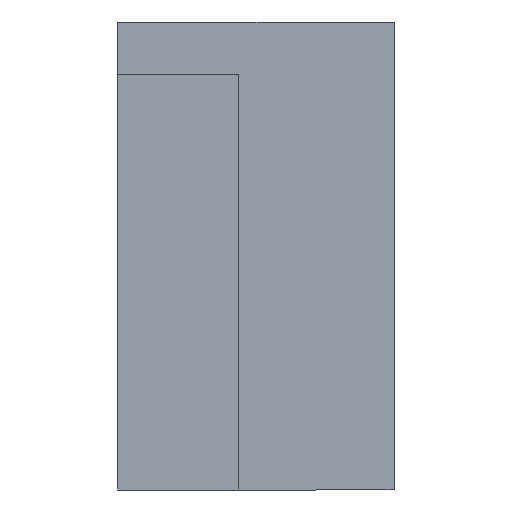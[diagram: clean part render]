
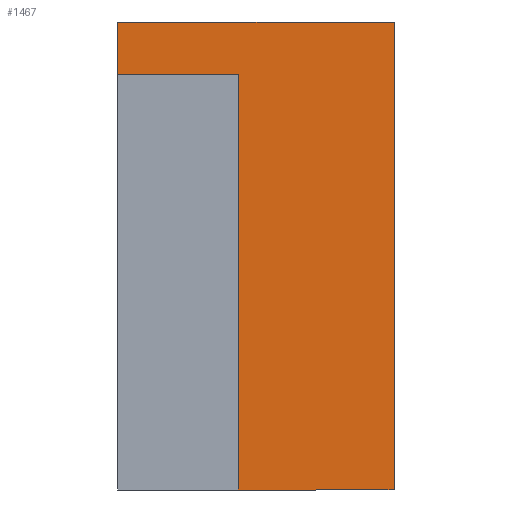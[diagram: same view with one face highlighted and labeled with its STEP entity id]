
A CAD part, left-side view. The second image highlights one B-rep face of the part: STEP entity #1467.
In plain terms, the highlighted planar face has unit normal (-1, 0, 0).
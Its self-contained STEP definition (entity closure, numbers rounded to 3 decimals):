
#32 = PLANE('',#33);
#33 = AXIS2_PLACEMENT_3D('',#34,#35,#36);
#34 = CARTESIAN_POINT('',(-7.8,3.675,0.));
#35 = DIRECTION('',(0.,0.,1.));
#36 = DIRECTION('',(0.,-1.,0.));
#44 = PLANE('',#45);
#45 = AXIS2_PLACEMENT_3D('',#46,#47,#48);
#46 = CARTESIAN_POINT('',(-7.8,3.675,0.));
#47 = DIRECTION('',(0.,-1.,0.));
#48 = DIRECTION('',(1.,0.,0.));
#85 = VERTEX_POINT('',#86);
#86 = CARTESIAN_POINT('',(-7.8,0.475,0.));
#100 = PLANE('',#101);
#101 = AXIS2_PLACEMENT_3D('',#102,#103,#104);
#102 = CARTESIAN_POINT('',(-15.7,0.475,0.));
#103 = DIRECTION('',(0.,-1.,0.));
#104 = DIRECTION('',(1.,0.,0.));
#112 = EDGE_CURVE('',#85,#113,#115,.T.);
#113 = VERTEX_POINT('',#114);
#114 = CARTESIAN_POINT('',(-7.8,-3.675,0.));
#115 = SURFACE_CURVE('',#116,(#120,#127),.PCURVE_S1.);
#116 = LINE('',#117,#118);
#117 = CARTESIAN_POINT('',(-7.8,3.675,0.));
#118 = VECTOR('',#119,1.);
#119 = DIRECTION('',(0.,-1.,0.));
#120 = PCURVE('',#32,#121);
#121 = DEFINITIONAL_REPRESENTATION('',(#122),#126);
#122 = LINE('',#123,#124);
#123 = CARTESIAN_POINT('',(0.,0.));
#124 = VECTOR('',#125,1.);
#125 = DIRECTION('',(1.,0.));
#126 = ( GEOMETRIC_REPRESENTATION_CONTEXT(2) 
PARAMETRIC_REPRESENTATION_CONTEXT() REPRESENTATION_CONTEXT('2D SPACE',''
  ) );
#127 = PCURVE('',#128,#133);
#128 = PLANE('',#129);
#129 = AXIS2_PLACEMENT_3D('',#130,#131,#132);
#130 = CARTESIAN_POINT('',(-7.8,3.675,0.));
#131 = DIRECTION('',(1.,0.,0.));
#132 = DIRECTION('',(0.,-1.,0.));
#133 = DEFINITIONAL_REPRESENTATION('',(#134),#138);
#134 = LINE('',#135,#136);
#135 = CARTESIAN_POINT('',(0.,0.));
#136 = VECTOR('',#137,1.);
#137 = DIRECTION('',(1.,0.));
#138 = ( GEOMETRIC_REPRESENTATION_CONTEXT(2) 
PARAMETRIC_REPRESENTATION_CONTEXT() REPRESENTATION_CONTEXT('2D SPACE',''
  ) );
#156 = PLANE('',#157);
#157 = AXIS2_PLACEMENT_3D('',#158,#159,#160);
#158 = CARTESIAN_POINT('',(-7.8,-3.675,0.));
#159 = DIRECTION('',(0.,-1.,0.));
#160 = DIRECTION('',(1.,0.,0.));
#659 = PLANE('',#660);
#660 = AXIS2_PLACEMENT_3D('',#661,#662,#663);
#661 = CARTESIAN_POINT('',(-7.8,3.675,12.46));
#662 = DIRECTION('',(0.,0.,1.));
#663 = DIRECTION('',(0.,-1.,0.));
#696 = VERTEX_POINT('',#697);
#697 = CARTESIAN_POINT('',(-7.8,3.675,12.46));
#718 = EDGE_CURVE('',#696,#719,#721,.T.);
#719 = VERTEX_POINT('',#720);
#720 = CARTESIAN_POINT('',(-7.8,-3.675,12.46));
#721 = SURFACE_CURVE('',#722,(#726,#733),.PCURVE_S1.);
#722 = LINE('',#723,#724);
#723 = CARTESIAN_POINT('',(-7.8,3.675,12.46));
#724 = VECTOR('',#725,1.);
#725 = DIRECTION('',(0.,-1.,0.));
#726 = PCURVE('',#659,#727);
#727 = DEFINITIONAL_REPRESENTATION('',(#728),#732);
#728 = LINE('',#729,#730);
#729 = CARTESIAN_POINT('',(0.,0.));
#730 = VECTOR('',#731,1.);
#731 = DIRECTION('',(1.,0.));
#732 = ( GEOMETRIC_REPRESENTATION_CONTEXT(2) 
PARAMETRIC_REPRESENTATION_CONTEXT() REPRESENTATION_CONTEXT('2D SPACE',''
  ) );
#733 = PCURVE('',#128,#734);
#734 = DEFINITIONAL_REPRESENTATION('',(#735),#739);
#735 = LINE('',#736,#737);
#736 = CARTESIAN_POINT('',(0.,-12.46));
#737 = VECTOR('',#738,1.);
#738 = DIRECTION('',(1.,0.));
#739 = ( GEOMETRIC_REPRESENTATION_CONTEXT(2) 
PARAMETRIC_REPRESENTATION_CONTEXT() REPRESENTATION_CONTEXT('2D SPACE',''
  ) );
#1444 = EDGE_CURVE('',#113,#719,#1445,.T.);
#1445 = SURFACE_CURVE('',#1446,(#1450,#1457),.PCURVE_S1.);
#1446 = LINE('',#1447,#1448);
#1447 = CARTESIAN_POINT('',(-7.8,-3.675,0.));
#1448 = VECTOR('',#1449,1.);
#1449 = DIRECTION('',(0.,0.,1.));
#1450 = PCURVE('',#156,#1451);
#1451 = DEFINITIONAL_REPRESENTATION('',(#1452),#1456);
#1452 = LINE('',#1453,#1454);
#1453 = CARTESIAN_POINT('',(0.,0.));
#1454 = VECTOR('',#1455,1.);
#1455 = DIRECTION('',(0.,1.));
#1456 = ( GEOMETRIC_REPRESENTATION_CONTEXT(2) 
PARAMETRIC_REPRESENTATION_CONTEXT() REPRESENTATION_CONTEXT('2D SPACE',''
  ) );
#1457 = PCURVE('',#128,#1458);
#1458 = DEFINITIONAL_REPRESENTATION('',(#1459),#1463);
#1459 = LINE('',#1460,#1461);
#1460 = CARTESIAN_POINT('',(7.35,0.));
#1461 = VECTOR('',#1462,1.);
#1462 = DIRECTION('',(0.,-1.));
#1463 = ( GEOMETRIC_REPRESENTATION_CONTEXT(2) 
PARAMETRIC_REPRESENTATION_CONTEXT() REPRESENTATION_CONTEXT('2D SPACE',''
  ) );
#1467 = ADVANCED_FACE('',(#1468),#128,.F.);
#1468 = FACE_BOUND('',#1469,.F.);
#1469 = EDGE_LOOP('',(#1470,#1471,#1494,#1522,#1543,#1544));
#1470 = ORIENTED_EDGE('',*,*,#112,.F.);
#1471 = ORIENTED_EDGE('',*,*,#1472,.F.);
#1472 = EDGE_CURVE('',#1473,#85,#1475,.T.);
#1473 = VERTEX_POINT('',#1474);
#1474 = CARTESIAN_POINT('',(-7.8,0.475,11.06));
#1475 = SURFACE_CURVE('',#1476,(#1480,#1487),.PCURVE_S1.);
#1476 = LINE('',#1477,#1478);
#1477 = CARTESIAN_POINT('',(-7.8,0.475,0.));
#1478 = VECTOR('',#1479,1.);
#1479 = DIRECTION('',(0.,0.,-1.));
#1480 = PCURVE('',#128,#1481);
#1481 = DEFINITIONAL_REPRESENTATION('',(#1482),#1486);
#1482 = LINE('',#1483,#1484);
#1483 = CARTESIAN_POINT('',(3.2,0.));
#1484 = VECTOR('',#1485,1.);
#1485 = DIRECTION('',(0.,1.));
#1486 = ( GEOMETRIC_REPRESENTATION_CONTEXT(2) 
PARAMETRIC_REPRESENTATION_CONTEXT() REPRESENTATION_CONTEXT('2D SPACE',''
  ) );
#1487 = PCURVE('',#100,#1488);
#1488 = DEFINITIONAL_REPRESENTATION('',(#1489),#1493);
#1489 = LINE('',#1490,#1491);
#1490 = CARTESIAN_POINT('',(7.9,0.));
#1491 = VECTOR('',#1492,1.);
#1492 = DIRECTION('',(0.,-1.));
#1493 = ( GEOMETRIC_REPRESENTATION_CONTEXT(2) 
PARAMETRIC_REPRESENTATION_CONTEXT() REPRESENTATION_CONTEXT('2D SPACE',''
  ) );
#1494 = ORIENTED_EDGE('',*,*,#1495,.F.);
#1495 = EDGE_CURVE('',#1496,#1473,#1498,.T.);
#1496 = VERTEX_POINT('',#1497);
#1497 = CARTESIAN_POINT('',(-7.8,3.675,11.06));
#1498 = SURFACE_CURVE('',#1499,(#1503,#1510),.PCURVE_S1.);
#1499 = LINE('',#1500,#1501);
#1500 = CARTESIAN_POINT('',(-7.8,3.675,11.06));
#1501 = VECTOR('',#1502,1.);
#1502 = DIRECTION('',(0.,-1.,0.));
#1503 = PCURVE('',#128,#1504);
#1504 = DEFINITIONAL_REPRESENTATION('',(#1505),#1509);
#1505 = LINE('',#1506,#1507);
#1506 = CARTESIAN_POINT('',(0.,-11.06));
#1507 = VECTOR('',#1508,1.);
#1508 = DIRECTION('',(1.,0.));
#1509 = ( GEOMETRIC_REPRESENTATION_CONTEXT(2) 
PARAMETRIC_REPRESENTATION_CONTEXT() REPRESENTATION_CONTEXT('2D SPACE',''
  ) );
#1510 = PCURVE('',#1511,#1516);
#1511 = PLANE('',#1512);
#1512 = AXIS2_PLACEMENT_3D('',#1513,#1514,#1515);
#1513 = CARTESIAN_POINT('',(-15.7,3.675,11.06));
#1514 = DIRECTION('',(0.,0.,1.));
#1515 = DIRECTION('',(0.,-1.,0.));
#1516 = DEFINITIONAL_REPRESENTATION('',(#1517),#1521);
#1517 = LINE('',#1518,#1519);
#1518 = CARTESIAN_POINT('',(0.,7.9));
#1519 = VECTOR('',#1520,1.);
#1520 = DIRECTION('',(1.,0.));
#1521 = ( GEOMETRIC_REPRESENTATION_CONTEXT(2) 
PARAMETRIC_REPRESENTATION_CONTEXT() REPRESENTATION_CONTEXT('2D SPACE',''
  ) );
#1522 = ORIENTED_EDGE('',*,*,#1523,.T.);
#1523 = EDGE_CURVE('',#1496,#696,#1524,.T.);
#1524 = SURFACE_CURVE('',#1525,(#1529,#1536),.PCURVE_S1.);
#1525 = LINE('',#1526,#1527);
#1526 = CARTESIAN_POINT('',(-7.8,3.675,0.));
#1527 = VECTOR('',#1528,1.);
#1528 = DIRECTION('',(0.,0.,1.));
#1529 = PCURVE('',#128,#1530);
#1530 = DEFINITIONAL_REPRESENTATION('',(#1531),#1535);
#1531 = LINE('',#1532,#1533);
#1532 = CARTESIAN_POINT('',(0.,0.));
#1533 = VECTOR('',#1534,1.);
#1534 = DIRECTION('',(0.,-1.));
#1535 = ( GEOMETRIC_REPRESENTATION_CONTEXT(2) 
PARAMETRIC_REPRESENTATION_CONTEXT() REPRESENTATION_CONTEXT('2D SPACE',''
  ) );
#1536 = PCURVE('',#44,#1537);
#1537 = DEFINITIONAL_REPRESENTATION('',(#1538),#1542);
#1538 = LINE('',#1539,#1540);
#1539 = CARTESIAN_POINT('',(0.,0.));
#1540 = VECTOR('',#1541,1.);
#1541 = DIRECTION('',(0.,1.));
#1542 = ( GEOMETRIC_REPRESENTATION_CONTEXT(2) 
PARAMETRIC_REPRESENTATION_CONTEXT() REPRESENTATION_CONTEXT('2D SPACE',''
  ) );
#1543 = ORIENTED_EDGE('',*,*,#718,.T.);
#1544 = ORIENTED_EDGE('',*,*,#1444,.F.);
